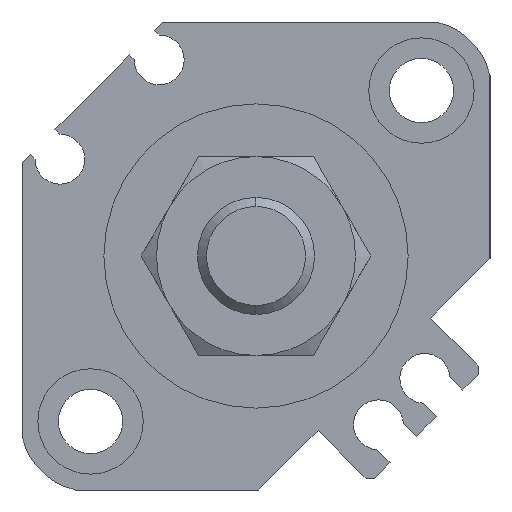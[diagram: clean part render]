
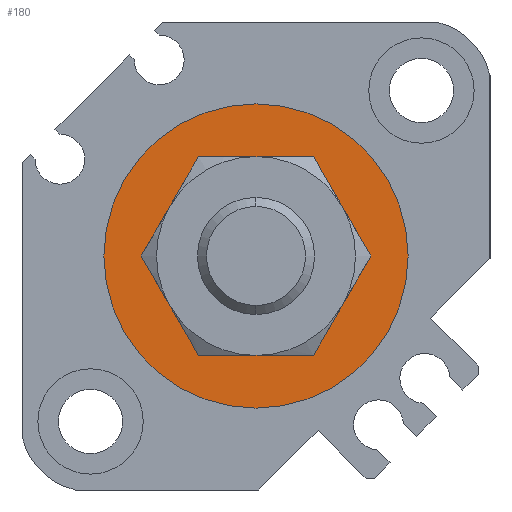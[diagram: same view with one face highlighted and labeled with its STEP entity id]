
A CAD part, left-side view. The second image highlights one B-rep face of the part: STEP entity #180.
In plain terms, the highlighted planar face has unit normal (-1, 0, 0).
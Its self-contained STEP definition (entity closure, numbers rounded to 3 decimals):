
#168 = FACE_BOUND ( 'NONE', #2150, .T. ) ;
#170 = DIRECTION ( 'NONE',  ( 0., 0., -1. ) ) ;
#180 = ADVANCED_FACE ( 'NONE', ( #5199, #168 ), #4331, .F. ) ;
#230 = DIRECTION ( 'NONE',  ( 1., 0., 0. ) ) ;
#243 = EDGE_CURVE ( 'NONE', #3161, #3956, #3580, .T. ) ;
#366 = ORIENTED_EDGE ( 'NONE', *, *, #2600, .F. ) ;
#499 = DIRECTION ( 'NONE',  ( 0., 1., 0. ) ) ;
#522 = AXIS2_PLACEMENT_3D ( 'NONE', #4795, #2235, #499 ) ;
#570 = CARTESIAN_POINT ( 'NONE',  ( 1.9, 0., 0. ) ) ;
#1014 = CARTESIAN_POINT ( 'NONE',  ( 1.9, 0., 13. ) ) ;
#1422 = CARTESIAN_POINT ( 'NONE',  ( 1.9, 0., 0. ) ) ;
#1455 = AXIS2_PLACEMENT_3D ( 'NONE', #3221, #3639, #5252 ) ;
#1457 = EDGE_CURVE ( 'NONE', #4959, #4746, #2262, .T. ) ;
#1473 = AXIS2_PLACEMENT_3D ( 'NONE', #4001, #1498, #3673 ) ;
#1498 = DIRECTION ( 'NONE',  ( 1., 0., 0. ) ) ;
#2108 = CARTESIAN_POINT ( 'NONE',  ( 1.9, 0., 7.5 ) ) ;
#2150 = EDGE_LOOP ( 'NONE', ( #4886, #4080 ) ) ;
#2235 = DIRECTION ( 'NONE',  ( 1., 0., 0. ) ) ;
#2239 = DIRECTION ( 'NONE',  ( 1., 0., 0. ) ) ;
#2262 = CIRCLE ( 'NONE', #4206, 13. ) ;
#2598 = CIRCLE ( 'NONE', #1455, 13. ) ;
#2600 = EDGE_CURVE ( 'NONE', #4746, #4959, #2598, .T. ) ;
#2640 = AXIS2_PLACEMENT_3D ( 'NONE', #570, #2239, #170 ) ;
#2857 = CARTESIAN_POINT ( 'NONE',  ( 1.9, 0., -13. ) ) ;
#3077 = CIRCLE ( 'NONE', #2640, 7.5 ) ;
#3155 = DIRECTION ( 'NONE',  ( 0., 0., -1. ) ) ;
#3161 = VERTEX_POINT ( 'NONE', #2108 ) ;
#3221 = CARTESIAN_POINT ( 'NONE',  ( 1.9, 0., 0. ) ) ;
#3473 = EDGE_LOOP ( 'NONE', ( #366, #4490 ) ) ;
#3554 = CARTESIAN_POINT ( 'NONE',  ( 1.9, 0., -7.5 ) ) ;
#3580 = CIRCLE ( 'NONE', #1473, 7.5 ) ;
#3639 = DIRECTION ( 'NONE',  ( 1., 0., 0. ) ) ;
#3673 = DIRECTION ( 'NONE',  ( 0., 0., -1. ) ) ;
#3956 = VERTEX_POINT ( 'NONE', #3554 ) ;
#4001 = CARTESIAN_POINT ( 'NONE',  ( 1.9, 0., 0. ) ) ;
#4080 = ORIENTED_EDGE ( 'NONE', *, *, #5055, .T. ) ;
#4206 = AXIS2_PLACEMENT_3D ( 'NONE', #1422, #230, #3155 ) ;
#4331 = PLANE ( 'NONE',  #522 ) ;
#4490 = ORIENTED_EDGE ( 'NONE', *, *, #1457, .F. ) ;
#4746 = VERTEX_POINT ( 'NONE', #1014 ) ;
#4795 = CARTESIAN_POINT ( 'NONE',  ( 1.9, 0., 0. ) ) ;
#4886 = ORIENTED_EDGE ( 'NONE', *, *, #243, .T. ) ;
#4959 = VERTEX_POINT ( 'NONE', #2857 ) ;
#5055 = EDGE_CURVE ( 'NONE', #3956, #3161, #3077, .T. ) ;
#5199 = FACE_OUTER_BOUND ( 'NONE', #3473, .T. ) ;
#5252 = DIRECTION ( 'NONE',  ( 0., 0., -1. ) ) ;
